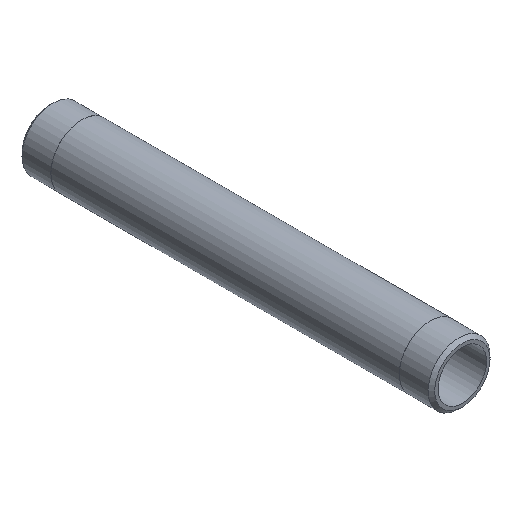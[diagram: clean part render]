
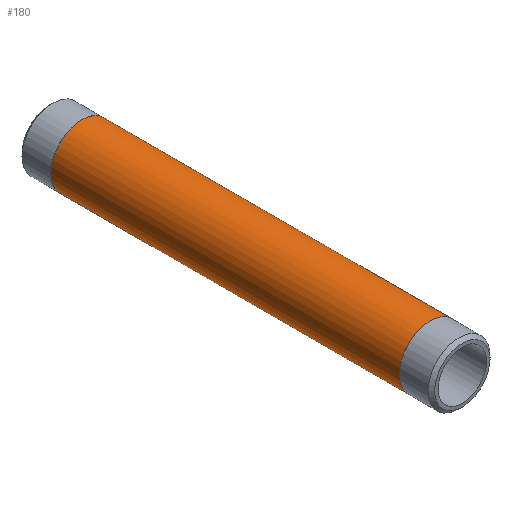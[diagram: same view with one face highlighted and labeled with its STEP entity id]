
A CAD part, isometric view. The second image highlights one B-rep face of the part: STEP entity #180.
In plain terms, the highlighted cylindrical face has radius 13.335 mm (diameter 26.67 mm), a full revolution.
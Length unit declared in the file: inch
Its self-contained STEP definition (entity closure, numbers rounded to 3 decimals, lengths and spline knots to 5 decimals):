
#25=CYLINDRICAL_SURFACE('',#220,0.525);
#34=FACE_OUTER_BOUND('',#47,.T.);
#47=EDGE_LOOP('',(#155,#156,#157,#158,#159,#160));
#55=LINE('',#338,#61);
#61=VECTOR('',#283,0.525);
#77=CIRCLE('',#218,0.525);
#78=CIRCLE('',#219,0.525);
#79=CIRCLE('',#221,0.525);
#80=CIRCLE('',#222,0.525);
#95=VERTEX_POINT('',#329);
#96=VERTEX_POINT('',#330);
#97=VERTEX_POINT('',#334);
#98=VERTEX_POINT('',#335);
#117=EDGE_CURVE('',#95,#96,#77,.T.);
#118=EDGE_CURVE('',#96,#95,#78,.T.);
#119=EDGE_CURVE('',#97,#98,#79,.T.);
#120=EDGE_CURVE('',#98,#97,#80,.T.);
#121=EDGE_CURVE('',#98,#96,#55,.T.);
#155=ORIENTED_EDGE('',*,*,#119,.F.);
#156=ORIENTED_EDGE('',*,*,#120,.F.);
#157=ORIENTED_EDGE('',*,*,#121,.T.);
#158=ORIENTED_EDGE('',*,*,#118,.T.);
#159=ORIENTED_EDGE('',*,*,#117,.T.);
#160=ORIENTED_EDGE('',*,*,#121,.F.);
#180=ADVANCED_FACE('',(#34),#25,.T.);
#218=AXIS2_PLACEMENT_3D('',#331,#273,#274);
#219=AXIS2_PLACEMENT_3D('',#332,#275,#276);
#220=AXIS2_PLACEMENT_3D('',#333,#277,#278);
#221=AXIS2_PLACEMENT_3D('',#336,#279,#280);
#222=AXIS2_PLACEMENT_3D('',#337,#281,#282);
#273=DIRECTION('center_axis',(0.,-1.,0.));
#274=DIRECTION('ref_axis',(1.,0.,0.));
#275=DIRECTION('center_axis',(0.,-1.,0.));
#276=DIRECTION('ref_axis',(1.,0.,0.));
#277=DIRECTION('center_axis',(0.,-1.,0.));
#278=DIRECTION('ref_axis',(0.,0.,-1.));
#279=DIRECTION('center_axis',(0.,-1.,0.));
#280=DIRECTION('ref_axis',(1.,0.,0.));
#281=DIRECTION('center_axis',(0.,-1.,0.));
#282=DIRECTION('ref_axis',(1.,0.,0.));
#283=DIRECTION('',(0.,1.,0.));
#329=CARTESIAN_POINT('',(0.,6.455,-0.525));
#330=CARTESIAN_POINT('',(0.,6.455,0.525));
#331=CARTESIAN_POINT('Origin',(0.,6.455,0.));
#332=CARTESIAN_POINT('Origin',(0.,6.455,0.));
#333=CARTESIAN_POINT('Origin',(0.,3.5,0.));
#334=CARTESIAN_POINT('',(0.,0.545,-0.525));
#335=CARTESIAN_POINT('',(0.,0.545,0.525));
#336=CARTESIAN_POINT('Origin',(0.,0.545,0.));
#337=CARTESIAN_POINT('Origin',(0.,0.545,0.));
#338=CARTESIAN_POINT('',(0.,3.5,0.525));
